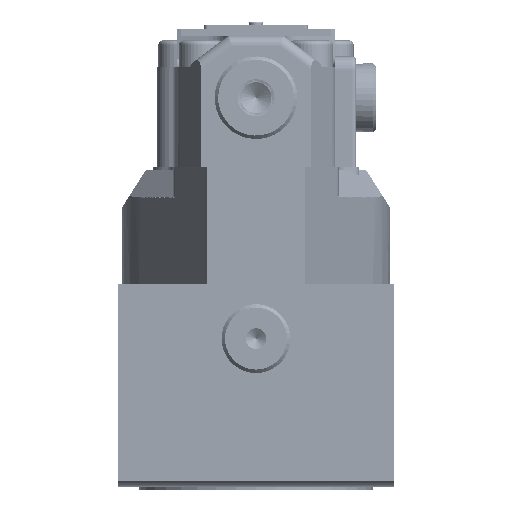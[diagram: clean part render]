
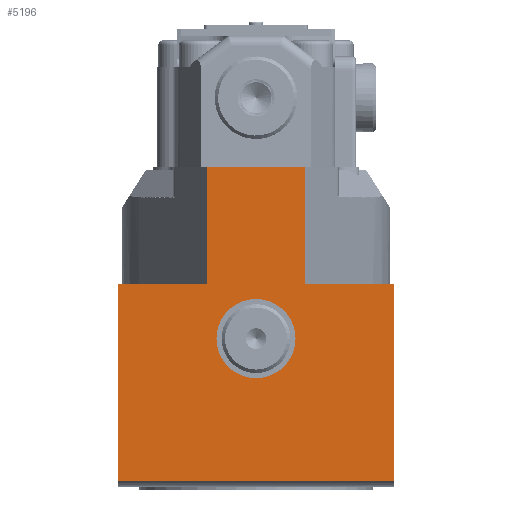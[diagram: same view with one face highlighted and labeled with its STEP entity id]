
A CAD part, left-side view. The second image highlights one B-rep face of the part: STEP entity #5196.
In plain terms, the highlighted planar face has unit normal (-1, 0, 0).
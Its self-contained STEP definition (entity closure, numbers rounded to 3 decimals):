
#1709=PLANE('',#19078);
#2717=LINE('',#86454,#3609);
#2740=LINE('',#86515,#3632);
#2741=LINE('',#86518,#3633);
#2742=LINE('',#86519,#3634);
#2743=LINE('',#86521,#3635);
#2744=LINE('',#86523,#3636);
#2745=LINE('',#86525,#3637);
#2746=LINE('',#86527,#3638);
#3609=VECTOR('',#22400,1.);
#3632=VECTOR('',#22445,1.);
#3633=VECTOR('',#22446,1.);
#3634=VECTOR('',#22447,1.);
#3635=VECTOR('',#22448,1.);
#3636=VECTOR('',#22449,1.);
#3637=VECTOR('',#22450,1.);
#3638=VECTOR('',#22451,1.);
#4231=FACE_BOUND('',#7199,.T.);
#4232=FACE_BOUND('',#7200,.T.);
#5196=ADVANCED_FACE('',(#4231,#4232),#1709,.T.);
#7199=EDGE_LOOP('',(#12061));
#7200=EDGE_LOOP('',(#12062,#12063,#12064,#12065,#12066,#12067,#12068,#12069));
#7735=CIRCLE('',#19077,11.5);
#12061=ORIENTED_EDGE('',*,*,#16520,.F.);
#12062=ORIENTED_EDGE('',*,*,#16521,.F.);
#12063=ORIENTED_EDGE('',*,*,#16522,.T.);
#12064=ORIENTED_EDGE('',*,*,#16491,.F.);
#12065=ORIENTED_EDGE('',*,*,#16523,.T.);
#12066=ORIENTED_EDGE('',*,*,#16524,.F.);
#12067=ORIENTED_EDGE('',*,*,#16525,.F.);
#12068=ORIENTED_EDGE('',*,*,#16526,.T.);
#12069=ORIENTED_EDGE('',*,*,#16527,.F.);
#14160=VERTEX_POINT('',#86455);
#14161=VERTEX_POINT('',#86456);
#14186=VERTEX_POINT('',#86514);
#14187=VERTEX_POINT('',#86516);
#14188=VERTEX_POINT('',#86517);
#14189=VERTEX_POINT('',#86520);
#14190=VERTEX_POINT('',#86522);
#14191=VERTEX_POINT('',#86524);
#14192=VERTEX_POINT('',#86526);
#16491=EDGE_CURVE('',#14160,#14161,#2717,.T.);
#16520=EDGE_CURVE('',#14186,#14186,#7735,.T.);
#16521=EDGE_CURVE('',#14187,#14188,#2740,.T.);
#16522=EDGE_CURVE('',#14187,#14161,#2741,.T.);
#16523=EDGE_CURVE('',#14160,#14189,#2742,.T.);
#16524=EDGE_CURVE('',#14190,#14189,#2743,.T.);
#16525=EDGE_CURVE('',#14191,#14190,#2744,.T.);
#16526=EDGE_CURVE('',#14191,#14192,#2745,.T.);
#16527=EDGE_CURVE('',#14188,#14192,#2746,.T.);
#19077=AXIS2_PLACEMENT_3D('',#86513,#22443,#22444);
#19078=AXIS2_PLACEMENT_3D('',#86528,#22452,#22453);
#22400=DIRECTION('',(0.,1.,0.));
#22443=DIRECTION('',(-1.,0.,0.));
#22444=DIRECTION('',(0.,0.,-1.));
#22445=DIRECTION('',(0.,-1.,0.));
#22446=DIRECTION('',(0.,0.,-1.));
#22447=DIRECTION('',(0.,0.,1.));
#22448=DIRECTION('',(0.,-1.,0.));
#22449=DIRECTION('',(0.,0.,-1.));
#22450=DIRECTION('',(0.,1.,0.));
#22451=DIRECTION('',(0.,0.,1.));
#22452=DIRECTION('',(-1.,0.,0.));
#22453=DIRECTION('',(0.,0.,-1.));
#86454=CARTESIAN_POINT('',(-745.26,136.121,-1.245));
#86455=CARTESIAN_POINT('',(-745.26,-96.932,-1.245));
#86456=CARTESIAN_POINT('',(-745.26,-16.932,-1.245));
#86513=CARTESIAN_POINT('',(-745.26,-56.932,40.));
#86514=CARTESIAN_POINT('',(-745.26,-56.932,28.5));
#86515=CARTESIAN_POINT('',(-745.26,-17.932,56.));
#86516=CARTESIAN_POINT('',(-745.26,-16.932,56.));
#86517=CARTESIAN_POINT('',(-745.26,-42.653,56.));
#86518=CARTESIAN_POINT('',(-745.26,-16.932,47.5));
#86519=CARTESIAN_POINT('',(-745.26,-96.932,47.5));
#86520=CARTESIAN_POINT('',(-745.26,-96.932,56.));
#86521=CARTESIAN_POINT('',(-745.26,-98.332,56.));
#86522=CARTESIAN_POINT('',(-745.26,-71.211,56.));
#86523=CARTESIAN_POINT('',(-745.26,-71.211,56.));
#86524=CARTESIAN_POINT('',(-745.26,-71.211,90.));
#86525=CARTESIAN_POINT('',(-745.26,-98.332,90.));
#86526=CARTESIAN_POINT('',(-745.26,-42.653,90.));
#86527=CARTESIAN_POINT('',(-745.26,-42.653,56.));
#86528=CARTESIAN_POINT('',(-745.26,-56.932,47.5));
